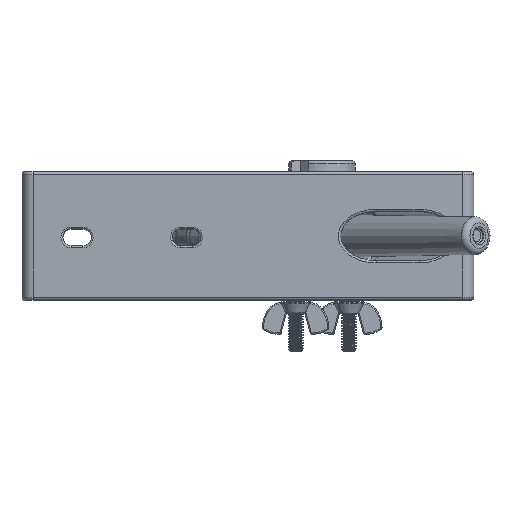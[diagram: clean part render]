
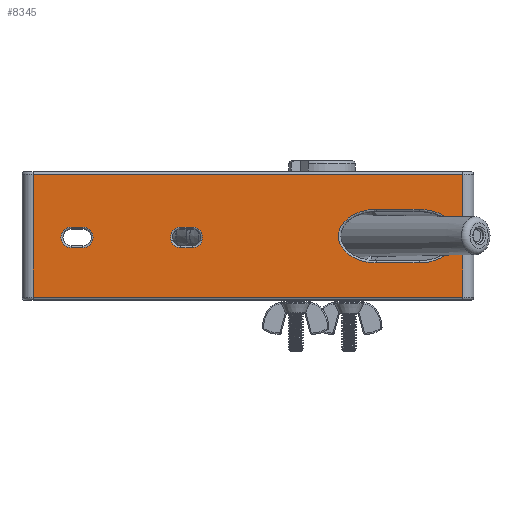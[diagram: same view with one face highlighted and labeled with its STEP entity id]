
A CAD part, top view. The second image highlights one B-rep face of the part: STEP entity #8345.
In plain terms, the highlighted planar face has unit normal (0, 0, 1).
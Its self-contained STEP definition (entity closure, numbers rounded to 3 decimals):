
#39=ELLIPSE('',#9152,10.041,7.1);
#40=ELLIPSE('',#9153,10.041,7.1);
#773=LINE('',#27736,#1218);
#799=LINE('',#27838,#1244);
#813=LINE('',#27945,#1258);
#839=LINE('',#28128,#1284);
#840=LINE('',#28133,#1285);
#841=LINE('',#28136,#1286);
#842=LINE('',#28139,#1287);
#843=LINE('',#28143,#1288);
#844=LINE('',#28149,#1289);
#845=LINE('',#28152,#1290);
#1218=VECTOR('',#10666,10.);
#1244=VECTOR('',#10770,10.);
#1258=VECTOR('',#10852,10.);
#1284=VECTOR('',#10972,10.);
#1285=VECTOR('',#10975,10.);
#1286=VECTOR('',#10978,10.);
#1287=VECTOR('',#10979,10.);
#1288=VECTOR('',#10982,10.);
#1289=VECTOR('',#10987,10.);
#1290=VECTOR('',#10990,10.);
#1762=FACE_BOUND('',#2648,.T.);
#1763=FACE_BOUND('',#2649,.T.);
#1764=FACE_BOUND('',#2650,.T.);
#2125=FACE_OUTER_BOUND('',#2647,.T.);
#2647=EDGE_LOOP('',(#7263,#7264,#7265,#7266));
#2648=EDGE_LOOP('',(#7267,#7268,#7269,#7270));
#2649=EDGE_LOOP('',(#7271,#7272,#7273,#7274));
#2650=EDGE_LOOP('',(#7275,#7276,#7277,#7278));
#3117=CIRCLE('',#9150,2.75);
#3118=CIRCLE('',#9151,2.75);
#3119=CIRCLE('',#9154,2.75);
#3120=CIRCLE('',#9155,2.75);
#3799=VERTEX_POINT('',#27729);
#3801=VERTEX_POINT('',#27734);
#3834=VERTEX_POINT('',#27837);
#3863=VERTEX_POINT('',#27941);
#3909=VERTEX_POINT('',#28129);
#3910=VERTEX_POINT('',#28130);
#3911=VERTEX_POINT('',#28132);
#3912=VERTEX_POINT('',#28134);
#3913=VERTEX_POINT('',#28137);
#3914=VERTEX_POINT('',#28138);
#3915=VERTEX_POINT('',#28140);
#3916=VERTEX_POINT('',#28142);
#3917=VERTEX_POINT('',#28145);
#3918=VERTEX_POINT('',#28146);
#3919=VERTEX_POINT('',#28148);
#3920=VERTEX_POINT('',#28150);
#4907=EDGE_CURVE('',#3801,#3799,#773,.T.);
#4957=EDGE_CURVE('',#3799,#3834,#799,.T.);
#4997=EDGE_CURVE('',#3834,#3863,#813,.T.);
#5059=EDGE_CURVE('',#3863,#3801,#839,.T.);
#5060=EDGE_CURVE('',#3909,#3910,#3117,.T.);
#5061=EDGE_CURVE('',#3911,#3909,#840,.T.);
#5062=EDGE_CURVE('',#3912,#3911,#3118,.T.);
#5063=EDGE_CURVE('',#3910,#3912,#841,.T.);
#5064=EDGE_CURVE('',#3913,#3914,#842,.T.);
#5065=EDGE_CURVE('',#3915,#3913,#39,.T.);
#5066=EDGE_CURVE('',#3916,#3915,#843,.T.);
#5067=EDGE_CURVE('',#3914,#3916,#40,.T.);
#5068=EDGE_CURVE('',#3917,#3918,#3119,.T.);
#5069=EDGE_CURVE('',#3919,#3917,#844,.T.);
#5070=EDGE_CURVE('',#3920,#3919,#3120,.T.);
#5071=EDGE_CURVE('',#3918,#3920,#845,.T.);
#7263=ORIENTED_EDGE('',*,*,#4907,.F.);
#7264=ORIENTED_EDGE('',*,*,#5059,.F.);
#7265=ORIENTED_EDGE('',*,*,#4997,.F.);
#7266=ORIENTED_EDGE('',*,*,#4957,.F.);
#7267=ORIENTED_EDGE('',*,*,#5060,.F.);
#7268=ORIENTED_EDGE('',*,*,#5061,.F.);
#7269=ORIENTED_EDGE('',*,*,#5062,.F.);
#7270=ORIENTED_EDGE('',*,*,#5063,.F.);
#7271=ORIENTED_EDGE('',*,*,#5064,.F.);
#7272=ORIENTED_EDGE('',*,*,#5065,.F.);
#7273=ORIENTED_EDGE('',*,*,#5066,.F.);
#7274=ORIENTED_EDGE('',*,*,#5067,.F.);
#7275=ORIENTED_EDGE('',*,*,#5068,.F.);
#7276=ORIENTED_EDGE('',*,*,#5069,.F.);
#7277=ORIENTED_EDGE('',*,*,#5070,.F.);
#7278=ORIENTED_EDGE('',*,*,#5071,.F.);
#7950=PLANE('',#9149);
#8345=ADVANCED_FACE('',(#2125,#1762,#1763,#1764),#7950,.T.);
#9149=AXIS2_PLACEMENT_3D('',#28127,#10970,#10971);
#9150=AXIS2_PLACEMENT_3D('',#28131,#10973,#10974);
#9151=AXIS2_PLACEMENT_3D('',#28135,#10976,#10977);
#9152=AXIS2_PLACEMENT_3D('',#28141,#10980,#10981);
#9153=AXIS2_PLACEMENT_3D('',#28144,#10983,#10984);
#9154=AXIS2_PLACEMENT_3D('',#28147,#10985,#10986);
#9155=AXIS2_PLACEMENT_3D('',#28151,#10988,#10989);
#10666=DIRECTION('',(1.,0.,0.));
#10770=DIRECTION('',(0.,-1.,0.));
#10852=DIRECTION('',(-1.,0.,0.));
#10970=DIRECTION('center_axis',(0.,0.,1.));
#10971=DIRECTION('ref_axis',(1.,0.,0.));
#10972=DIRECTION('',(0.,1.,0.));
#10973=DIRECTION('center_axis',(0.,0.,1.));
#10974=DIRECTION('ref_axis',(-1.,0.,0.));
#10975=DIRECTION('',(-1.,0.,0.));
#10976=DIRECTION('center_axis',(0.,0.,1.));
#10977=DIRECTION('ref_axis',(1.,0.,0.));
#10978=DIRECTION('',(1.,0.,0.));
#10979=DIRECTION('',(1.,0.,0.));
#10980=DIRECTION('center_axis',(0.,0.,1.));
#10981=DIRECTION('ref_axis',(-1.,0.,0.));
#10982=DIRECTION('',(-1.,0.,0.));
#10983=DIRECTION('center_axis',(0.,0.,1.));
#10984=DIRECTION('ref_axis',(1.,0.,0.));
#10985=DIRECTION('center_axis',(0.,0.,1.));
#10986=DIRECTION('ref_axis',(-1.,0.,0.));
#10987=DIRECTION('',(-1.,0.,0.));
#10988=DIRECTION('center_axis',(0.,0.,1.));
#10989=DIRECTION('ref_axis',(1.,0.,0.));
#10990=DIRECTION('',(1.,0.,0.));
#27729=CARTESIAN_POINT('',(37.233,16.2,41.655));
#27734=CARTESIAN_POINT('',(-76.469,16.2,41.655));
#27736=CARTESIAN_POINT('',(-49.544,16.2,41.655));
#27837=CARTESIAN_POINT('',(37.233,-16.2,41.655));
#27838=CARTESIAN_POINT('',(37.233,0.,41.655));
#27941=CARTESIAN_POINT('',(-76.469,-16.2,41.655));
#27945=CARTESIAN_POINT('',(-49.544,-16.2,41.655));
#28127=CARTESIAN_POINT('Origin',(-79.469,0.,41.655));
#28128=CARTESIAN_POINT('',(-76.469,0.,41.655));
#28129=CARTESIAN_POINT('',(-37.39,2.36,41.655));
#28130=CARTESIAN_POINT('',(-37.39,-3.14,41.655));
#28131=CARTESIAN_POINT('Origin',(-37.39,-0.39,41.655));
#28132=CARTESIAN_POINT('',(-34.39,2.36,41.655));
#28133=CARTESIAN_POINT('',(-56.93,2.36,41.655));
#28134=CARTESIAN_POINT('',(-34.39,-3.14,41.655));
#28135=CARTESIAN_POINT('Origin',(-34.39,-0.39,41.655));
#28136=CARTESIAN_POINT('',(-58.43,-3.14,41.655));
#28137=CARTESIAN_POINT('',(14.404,-7.156,41.655));
#28138=CARTESIAN_POINT('',(25.718,-7.156,41.655));
#28139=CARTESIAN_POINT('',(-17.827,-7.156,41.655));
#28140=CARTESIAN_POINT('',(14.404,7.044,41.655));
#28141=CARTESIAN_POINT('Origin',(14.404,-0.056,41.655));
#28142=CARTESIAN_POINT('',(25.718,7.044,41.655));
#28143=CARTESIAN_POINT('',(-20.656,7.044,41.655));
#28144=CARTESIAN_POINT('Origin',(25.718,-0.056,41.655));
#28145=CARTESIAN_POINT('',(-66.39,2.36,41.655));
#28146=CARTESIAN_POINT('',(-66.39,-3.14,41.655));
#28147=CARTESIAN_POINT('Origin',(-66.39,-0.39,41.655));
#28148=CARTESIAN_POINT('',(-63.39,2.36,41.655));
#28149=CARTESIAN_POINT('',(-71.43,2.36,41.655));
#28150=CARTESIAN_POINT('',(-63.39,-3.14,41.655));
#28151=CARTESIAN_POINT('Origin',(-63.39,-0.39,41.655));
#28152=CARTESIAN_POINT('',(-72.93,-3.14,41.655));
